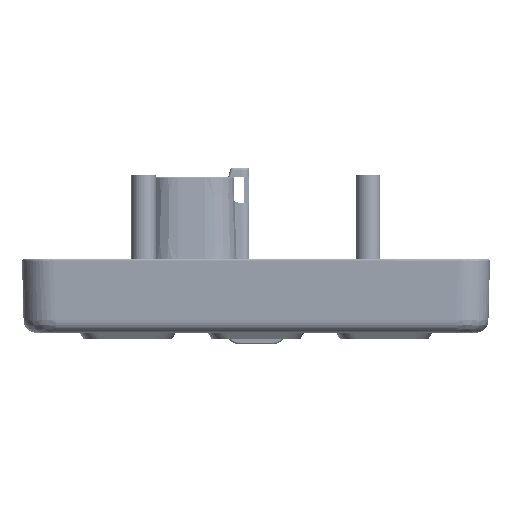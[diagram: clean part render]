
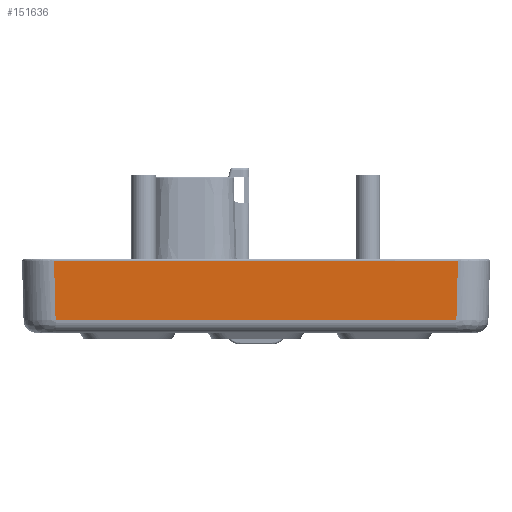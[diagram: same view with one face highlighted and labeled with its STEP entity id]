
A CAD part, front view. The second image highlights one B-rep face of the part: STEP entity #151636.
In plain terms, the highlighted planar face has unit normal (0, -1, -0.026) as drawn and (0, -1, 0.026) by its records, which use the part's own axes.
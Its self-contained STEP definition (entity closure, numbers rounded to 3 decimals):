
#32772 = EDGE_LOOP ( 'NONE', ( #32846, #253996, #177250, #50863 ) ) ;
#32846 = ORIENTED_EDGE ( 'NONE', *, *, #41188, .T. ) ;
#40670 = PLANE ( 'NONE',  #124723 ) ;
#41188 = EDGE_CURVE ( 'NONE', #157363, #115550, #205175, .T. ) ;
#45150 = LINE ( 'NONE', #270632, #240718 ) ;
#50863 = ORIENTED_EDGE ( 'NONE', *, *, #196694, .T. ) ;
#66163 = DIRECTION ( 'NONE',  ( 1., 0., 0. ) ) ;
#103191 = CARTESIAN_POINT ( 'NONE',  ( 39.997, -59.68, 0.753 ) ) ;
#110052 = LINE ( 'NONE', #116414, #177490 ) ;
#115550 = VERTEX_POINT ( 'NONE', #222417 ) ;
#116414 = CARTESIAN_POINT ( 'NONE',  ( -46.355, -59.68, 0.753 ) ) ;
#122908 = DIRECTION ( 'NONE',  ( -0.026, 0.026, 0.999 ) ) ;
#124723 = AXIS2_PLACEMENT_3D ( 'NONE', #240187, #290493, #139620 ) ;
#125107 = LINE ( 'NONE', #279247, #221895 ) ;
#139620 = DIRECTION ( 'NONE',  ( 0., -0.026, -1. ) ) ;
#150178 = DIRECTION ( 'NONE',  ( -0.026, -0.026, -0.999 ) ) ;
#151636 = ADVANCED_FACE ( 'NONE', ( #245020 ), #40670, .T. ) ;
#157363 = VERTEX_POINT ( 'NONE', #303248 ) ;
#171098 = VECTOR ( 'NONE', #150178, 1000. ) ;
#177250 = ORIENTED_EDGE ( 'NONE', *, *, #319330, .T. ) ;
#177490 = VECTOR ( 'NONE', #66163, 1000. ) ;
#177703 = CARTESIAN_POINT ( 'NONE',  ( -40.012, -59.694, 0.205 ) ) ;
#189023 = CARTESIAN_POINT ( 'NONE',  ( 39.689, -59.372, 12.528 ) ) ;
#196694 = EDGE_CURVE ( 'NONE', #273077, #157363, #125107, .T. ) ;
#205175 = LINE ( 'NONE', #177703, #171098 ) ;
#217877 = VERTEX_POINT ( 'NONE', #103191 ) ;
#221895 = VECTOR ( 'NONE', #233696, 1000. ) ;
#222417 = CARTESIAN_POINT ( 'NONE',  ( -39.997, -59.68, 0.76 ) ) ;
#233696 = DIRECTION ( 'NONE',  ( -1., 0., 0. ) ) ;
#240187 = CARTESIAN_POINT ( 'NONE',  ( -46.355, -59.69, 0.371 ) ) ;
#240718 = VECTOR ( 'NONE', #122908, 1000. ) ;
#245020 = FACE_OUTER_BOUND ( 'NONE', #32772, .T. ) ;
#253996 = ORIENTED_EDGE ( 'NONE', *, *, #317199, .T. ) ;
#270632 = CARTESIAN_POINT ( 'NONE',  ( 39.948, -59.631, 2.629 ) ) ;
#273077 = VERTEX_POINT ( 'NONE', #189023 ) ;
#279247 = CARTESIAN_POINT ( 'NONE',  ( -39.624, -59.372, 12.528 ) ) ;
#290493 = DIRECTION ( 'NONE',  ( 0., -1., 0.026 ) ) ;
#303248 = CARTESIAN_POINT ( 'NONE',  ( -39.689, -59.372, 12.528 ) ) ;
#317199 = EDGE_CURVE ( 'NONE', #115550, #217877, #110052, .T. ) ;
#319330 = EDGE_CURVE ( 'NONE', #217877, #273077, #45150, .T. ) ;
